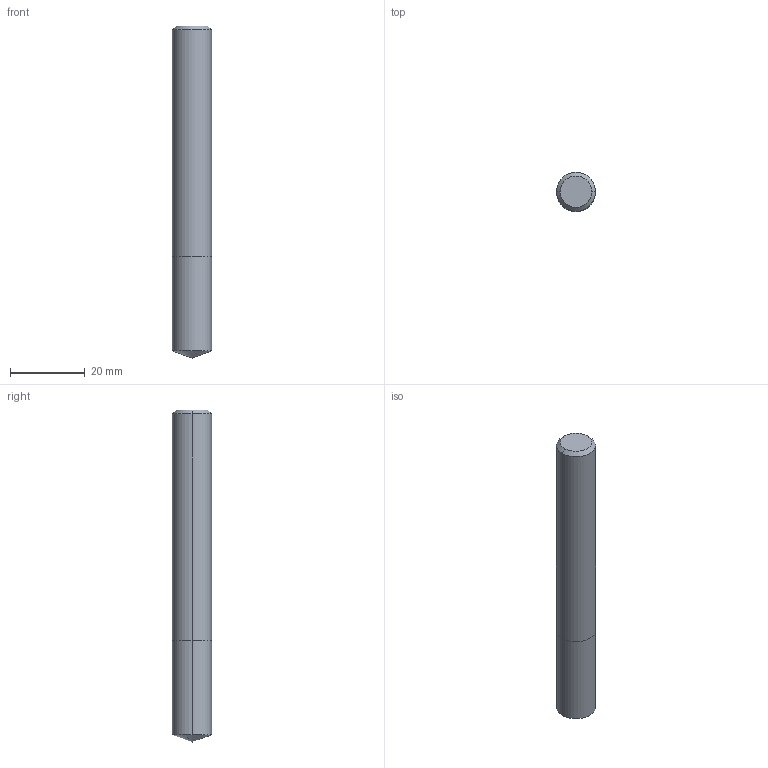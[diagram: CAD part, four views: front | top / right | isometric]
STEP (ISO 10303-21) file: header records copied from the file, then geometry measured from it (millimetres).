
FILE_DESCRIPTION (( 'STEP AP214' ), '1' );
FILE_NAME ('303.105.00_3D-model.step', '2022-02-19T16:09:25', ( '' ), ( '' ), 'SwSTEP 2.0', 'SolidWorks 2020', '' );
FILE_SCHEMA (( 'AUTOMOTIVE_DESIGN' ));
Length unit declared in the file: millimetre
Products named in the file (3): NOCUT-3D^Baugr74; CUT-3D^Baugr74; 303.105.00_3D-model
Assembly tree (2 placements, depth 2):
  303.105.00_3D-model
    CUT-3D^Baugr74
    NOCUT-3D^Baugr74
Bounding box: 10.5 x 10.5 x 89 mm (x, y, z)
Volume: 7579.3 mm3; surface area: 3203 mm2
Topology: 2 solids, 2 shells, 11 faces, 20 edges, 11 vertices
Faces by surface type: cone 4, cylinder 4, plane 3
Entity records: 380 total; most frequent: DIRECTION 66, CARTESIAN_POINT 48, ORIENTED_EDGE 36, AXIS2_PLACEMENT_3D 29, EDGE_CURVE 18, EDGE_LOOP 11, ADVANCED_FACE 11, FACE_OUTER_BOUND 11
